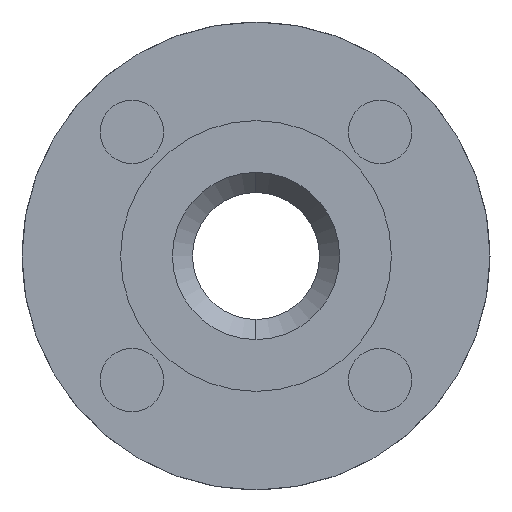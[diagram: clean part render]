
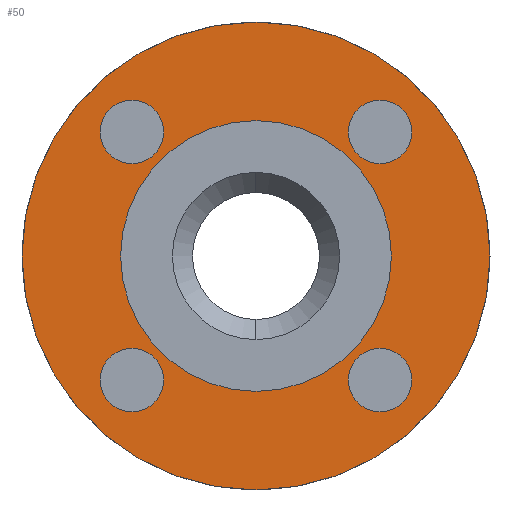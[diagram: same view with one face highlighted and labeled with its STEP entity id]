
A CAD part, left-side view. The second image highlights one B-rep face of the part: STEP entity #50.
In plain terms, the highlighted planar face has unit normal (-1, 0, 0).
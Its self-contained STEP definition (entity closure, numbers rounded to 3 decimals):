
#50=ADVANCED_FACE('',(#261,#262,#263,#264,#265,#266),#260,.T.);
#260=PLANE('',#1294);
#261=FACE_OUTER_BOUND('',#1295,.T.);
#262=FACE_BOUND('',#1296,.T.);
#263=FACE_BOUND('',#1297,.T.);
#264=FACE_BOUND('',#1298,.T.);
#265=FACE_BOUND('',#1299,.T.);
#266=FACE_BOUND('',#1300,.T.);
#1291=CARTESIAN_POINT('',(2.,-131.244,-150.));
#1292=DIRECTION('',(-1.,0.,0.));
#1293=DIRECTION('',(0.,0.,1.));
#1294=AXIS2_PLACEMENT_3D('',#1291,#1292,#1293);
#1295=EDGE_LOOP('',(#2270,#2271));
#1296=EDGE_LOOP('',(#2272,#2273));
#1297=EDGE_LOOP('',(#2274,#2275));
#1298=EDGE_LOOP('',(#2276,#2277));
#1299=EDGE_LOOP('',(#2278,#2279));
#1300=EDGE_LOOP('',(#2280,#2281));
#2270=ORIENTED_EDGE('',*,*,#2748,.T.);
#2271=ORIENTED_EDGE('',*,*,#2749,.T.);
#2272=ORIENTED_EDGE('',*,*,#2750,.F.);
#2273=ORIENTED_EDGE('',*,*,#2751,.F.);
#2274=ORIENTED_EDGE('',*,*,#2752,.F.);
#2275=ORIENTED_EDGE('',*,*,#2753,.F.);
#2276=ORIENTED_EDGE('',*,*,#2754,.F.);
#2277=ORIENTED_EDGE('',*,*,#2755,.F.);
#2278=ORIENTED_EDGE('',*,*,#2756,.F.);
#2279=ORIENTED_EDGE('',*,*,#2757,.F.);
#2280=ORIENTED_EDGE('',*,*,#2758,.F.);
#2281=ORIENTED_EDGE('',*,*,#2759,.F.);
#2748=EDGE_CURVE('',#3310,#3311,#3312,.T.);
#2749=EDGE_CURVE('',#3311,#3310,#3318,.T.);
#2750=EDGE_CURVE('',#3324,#3325,#3326,.T.);
#2751=EDGE_CURVE('',#3325,#3324,#3332,.T.);
#2752=EDGE_CURVE('',#3338,#3339,#3340,.T.);
#2753=EDGE_CURVE('',#3339,#3338,#3346,.T.);
#2754=EDGE_CURVE('',#3352,#3353,#3354,.T.);
#2755=EDGE_CURVE('',#3353,#3352,#3360,.T.);
#2756=EDGE_CURVE('',#3366,#3367,#3368,.T.);
#2757=EDGE_CURVE('',#3367,#3366,#3374,.T.);
#2758=EDGE_CURVE('',#3380,#3381,#3382,.T.);
#2759=EDGE_CURVE('',#3381,#3380,#3388,.T.);
#3310=VERTEX_POINT('',#4783);
#3311=VERTEX_POINT('',#4784);
#3312=CIRCLE('',#4788,70.);
#3318=CIRCLE('',#4792,70.);
#3324=VERTEX_POINT('',#4793);
#3325=VERTEX_POINT('',#4794);
#3326=CIRCLE('',#4798,9.5);
#3332=CIRCLE('',#4802,9.5);
#3338=VERTEX_POINT('',#4803);
#3339=VERTEX_POINT('',#4804);
#3340=CIRCLE('',#4808,9.5);
#3346=CIRCLE('',#4812,9.5);
#3352=VERTEX_POINT('',#4813);
#3353=VERTEX_POINT('',#4814);
#3354=CIRCLE('',#4818,9.5);
#3360=CIRCLE('',#4822,9.5);
#3366=VERTEX_POINT('',#4823);
#3367=VERTEX_POINT('',#4824);
#3368=CIRCLE('',#4828,9.5);
#3374=CIRCLE('',#4832,9.5);
#3380=VERTEX_POINT('',#4833);
#3381=VERTEX_POINT('',#4834);
#3382=CIRCLE('',#4838,40.5);
#3388=CIRCLE('',#4842,40.5);
#4783=CARTESIAN_POINT('',(2.,0.,70.));
#4784=CARTESIAN_POINT('',(2.,0.,-70.));
#4785=CARTESIAN_POINT('',(2.,0.,0.));
#4786=DIRECTION('',(-1.,0.,0.));
#4787=DIRECTION('',(0.,0.,1.));
#4788=AXIS2_PLACEMENT_3D('',#4785,#4786,#4787);
#4789=CARTESIAN_POINT('',(2.,0.,0.));
#4790=DIRECTION('',(-1.,0.,0.));
#4791=DIRECTION('',(0.,0.,1.));
#4792=AXIS2_PLACEMENT_3D('',#4789,#4790,#4791);
#4793=CARTESIAN_POINT('',(2.,-37.123,46.623));
#4794=CARTESIAN_POINT('',(2.,-37.123,27.623));
#4795=CARTESIAN_POINT('',(2.,-37.123,37.123));
#4796=DIRECTION('',(-1.,0.,0.));
#4797=DIRECTION('',(0.,0.,-1.));
#4798=AXIS2_PLACEMENT_3D('',#4795,#4796,#4797);
#4799=CARTESIAN_POINT('',(2.,-37.123,37.123));
#4800=DIRECTION('',(-1.,0.,0.));
#4801=DIRECTION('',(0.,0.,-1.));
#4802=AXIS2_PLACEMENT_3D('',#4799,#4800,#4801);
#4803=CARTESIAN_POINT('',(2.,-37.123,-27.623));
#4804=CARTESIAN_POINT('',(2.,-37.123,-46.623));
#4805=CARTESIAN_POINT('',(2.,-37.123,-37.123));
#4806=DIRECTION('',(-1.,0.,0.));
#4807=DIRECTION('',(0.,0.,-1.));
#4808=AXIS2_PLACEMENT_3D('',#4805,#4806,#4807);
#4809=CARTESIAN_POINT('',(2.,-37.123,-37.123));
#4810=DIRECTION('',(-1.,0.,0.));
#4811=DIRECTION('',(0.,0.,-1.));
#4812=AXIS2_PLACEMENT_3D('',#4809,#4810,#4811);
#4813=CARTESIAN_POINT('',(2.,37.123,-27.623));
#4814=CARTESIAN_POINT('',(2.,37.123,-46.623));
#4815=CARTESIAN_POINT('',(2.,37.123,-37.123));
#4816=DIRECTION('',(-1.,0.,0.));
#4817=DIRECTION('',(0.,0.,-1.));
#4818=AXIS2_PLACEMENT_3D('',#4815,#4816,#4817);
#4819=CARTESIAN_POINT('',(2.,37.123,-37.123));
#4820=DIRECTION('',(-1.,0.,0.));
#4821=DIRECTION('',(0.,0.,-1.));
#4822=AXIS2_PLACEMENT_3D('',#4819,#4820,#4821);
#4823=CARTESIAN_POINT('',(2.,37.123,46.623));
#4824=CARTESIAN_POINT('',(2.,37.123,27.623));
#4825=CARTESIAN_POINT('',(2.,37.123,37.123));
#4826=DIRECTION('',(-1.,0.,0.));
#4827=DIRECTION('',(0.,0.,-1.));
#4828=AXIS2_PLACEMENT_3D('',#4825,#4826,#4827);
#4829=CARTESIAN_POINT('',(2.,37.123,37.123));
#4830=DIRECTION('',(-1.,0.,0.));
#4831=DIRECTION('',(0.,0.,-1.));
#4832=AXIS2_PLACEMENT_3D('',#4829,#4830,#4831);
#4833=CARTESIAN_POINT('',(2.,0.,-40.5));
#4834=CARTESIAN_POINT('',(2.,0.,40.5));
#4835=CARTESIAN_POINT('',(2.,0.,0.));
#4836=DIRECTION('',(-1.,0.,0.));
#4837=DIRECTION('',(0.,0.,1.));
#4838=AXIS2_PLACEMENT_3D('',#4835,#4836,#4837);
#4839=CARTESIAN_POINT('',(2.,0.,0.));
#4840=DIRECTION('',(-1.,0.,0.));
#4841=DIRECTION('',(0.,0.,1.));
#4842=AXIS2_PLACEMENT_3D('',#4839,#4840,#4841);
